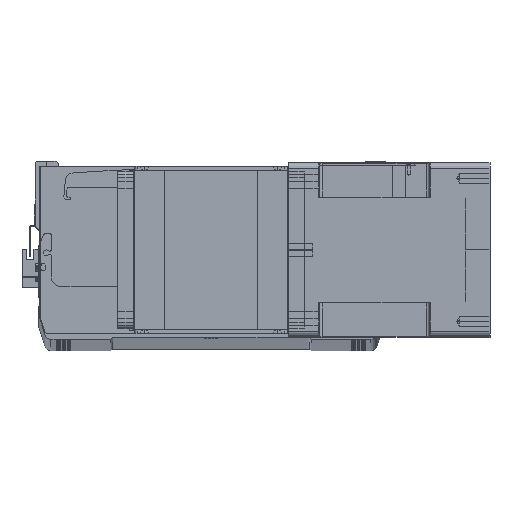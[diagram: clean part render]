
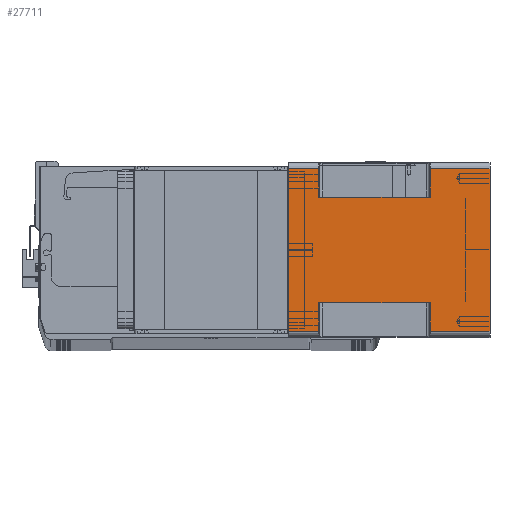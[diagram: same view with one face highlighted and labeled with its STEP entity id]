
A CAD part, top view. The second image highlights one B-rep face of the part: STEP entity #27711.
In plain terms, the highlighted planar face has unit normal (0, 0, 1) as drawn and (1, 0, 0) by its records, which use the part's own axes.
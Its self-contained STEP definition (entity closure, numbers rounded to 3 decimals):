
#1254 = LINE ( 'NONE', #16430, #12022 ) ;
#1464 = CARTESIAN_POINT ( 'NONE',  ( 71., -43., -24.5 ) ) ;
#2217 = ORIENTED_EDGE ( 'NONE', *, *, #5208, .F. ) ;
#2384 = VECTOR ( 'NONE', #13791, 1000. ) ;
#2499 = DIRECTION ( 'NONE',  ( 0., 0., 1. ) ) ;
#2751 = EDGE_CURVE ( 'NONE', #6782, #4648, #1254, .T. ) ;
#3685 = PLANE ( 'NONE',  #13955 ) ;
#4100 = ORIENTED_EDGE ( 'NONE', *, *, #20103, .T. ) ;
#4196 = VERTEX_POINT ( 'NONE', #39315 ) ;
#4211 = EDGE_CURVE ( 'NONE', #23859, #15850, #22135, .T. ) ;
#4559 = CARTESIAN_POINT ( 'NONE',  ( 71., 66., -164. ) ) ;
#4648 = VERTEX_POINT ( 'NONE', #35583 ) ;
#5171 = VERTEX_POINT ( 'NONE', #10490 ) ;
#5208 = EDGE_CURVE ( 'NONE', #16538, #19620, #10686, .T. ) ;
#5342 = VERTEX_POINT ( 'NONE', #8427 ) ;
#5576 = ORIENTED_EDGE ( 'NONE', *, *, #29170, .F. ) ;
#6147 = CARTESIAN_POINT ( 'NONE',  ( 71., -66., -24.5 ) ) ;
#6274 = ORIENTED_EDGE ( 'NONE', *, *, #36395, .F. ) ;
#6277 = DIRECTION ( 'NONE',  ( 0., 1., 0. ) ) ;
#6782 = VERTEX_POINT ( 'NONE', #8932 ) ;
#7959 = DIRECTION ( 'NONE',  ( 0., 0., 1. ) ) ;
#8018 = VECTOR ( 'NONE', #10479, 1000. ) ;
#8315 = VECTOR ( 'NONE', #23290, 1000. ) ;
#8375 = CARTESIAN_POINT ( 'NONE',  ( 71., -66., -164. ) ) ;
#8427 = CARTESIAN_POINT ( 'NONE',  ( 71., 66., -24.5 ) ) ;
#8605 = CARTESIAN_POINT ( 'NONE',  ( 71., -66., -24.5 ) ) ;
#8932 = CARTESIAN_POINT ( 'NONE',  ( 71., -43., -115.5 ) ) ;
#9208 = ORIENTED_EDGE ( 'NONE', *, *, #34616, .T. ) ;
#9475 = LINE ( 'NONE', #20257, #8018 ) ;
#10479 = DIRECTION ( 'NONE',  ( 0., 0., 1. ) ) ;
#10490 = CARTESIAN_POINT ( 'NONE',  ( 71., 66., 0. ) ) ;
#10616 = EDGE_LOOP ( 'NONE', ( #6274, #17744, #16535, #4100, #31462, #15728, #2217, #9208, #32844, #5576, #21635, #38420 ) ) ;
#10686 = LINE ( 'NONE', #32930, #2384 ) ;
#12022 = VECTOR ( 'NONE', #29025, 1000. ) ;
#12687 = CARTESIAN_POINT ( 'NONE',  ( 71., -66., 0. ) ) ;
#13791 = DIRECTION ( 'NONE',  ( 0., 0., -1. ) ) ;
#13955 = AXIS2_PLACEMENT_3D ( 'NONE', #38711, #26042, #35418 ) ;
#14599 = VECTOR ( 'NONE', #18200, 1000. ) ;
#14707 = CARTESIAN_POINT ( 'NONE',  ( 71., 43., -115.5 ) ) ;
#14771 = VECTOR ( 'NONE', #35511, 1000. ) ;
#15246 = LINE ( 'NONE', #8605, #29934 ) ;
#15728 = ORIENTED_EDGE ( 'NONE', *, *, #24642, .T. ) ;
#15850 = VERTEX_POINT ( 'NONE', #28064 ) ;
#16430 = CARTESIAN_POINT ( 'NONE',  ( 71., -66., -115.5 ) ) ;
#16535 = ORIENTED_EDGE ( 'NONE', *, *, #32826, .F. ) ;
#16538 = VERTEX_POINT ( 'NONE', #38473 ) ;
#17330 = VECTOR ( 'NONE', #6277, 1000. ) ;
#17744 = ORIENTED_EDGE ( 'NONE', *, *, #2751, .T. ) ;
#18132 = VERTEX_POINT ( 'NONE', #38585 ) ;
#18200 = DIRECTION ( 'NONE',  ( 0., 1., 0. ) ) ;
#18645 = LINE ( 'NONE', #4559, #40097 ) ;
#19473 = LINE ( 'NONE', #24917, #25840 ) ;
#19620 = VERTEX_POINT ( 'NONE', #14707 ) ;
#20103 = EDGE_CURVE ( 'NONE', #18132, #21973, #37108, .T. ) ;
#20257 = CARTESIAN_POINT ( 'NONE',  ( 71., -66., -164. ) ) ;
#21635 = ORIENTED_EDGE ( 'NONE', *, *, #4211, .F. ) ;
#21973 = VERTEX_POINT ( 'NONE', #32307 ) ;
#22135 = LINE ( 'NONE', #8375, #27502 ) ;
#22391 = VECTOR ( 'NONE', #2499, 1000. ) ;
#22934 = FACE_OUTER_BOUND ( 'NONE', #10616, .T. ) ;
#23152 = LINE ( 'NONE', #1464, #14771 ) ;
#23290 = DIRECTION ( 'NONE',  ( 0., 0., 1. ) ) ;
#23859 = VERTEX_POINT ( 'NONE', #6147 ) ;
#24642 = EDGE_CURVE ( 'NONE', #33701, #19620, #19473, .T. ) ;
#24774 = DIRECTION ( 'NONE',  ( 0., -1., 0. ) ) ;
#24917 = CARTESIAN_POINT ( 'NONE',  ( 71., 43., -115.5 ) ) ;
#25840 = VECTOR ( 'NONE', #24774, 1000. ) ;
#26042 = DIRECTION ( 'NONE',  ( 1., 0., 0. ) ) ;
#26803 = EDGE_CURVE ( 'NONE', #23859, #4196, #23152, .T. ) ;
#27429 = CARTESIAN_POINT ( 'NONE',  ( 71., -43., -164. ) ) ;
#27502 = VECTOR ( 'NONE', #29882, 1000. ) ;
#27711 = ADVANCED_FACE ( 'NONE', ( #22934 ), #3685, .T. ) ;
#27751 = CARTESIAN_POINT ( 'NONE',  ( 71., -66., -164. ) ) ;
#28064 = CARTESIAN_POINT ( 'NONE',  ( 71., -66., 0. ) ) ;
#29025 = DIRECTION ( 'NONE',  ( 0., -1., 0. ) ) ;
#29170 = EDGE_CURVE ( 'NONE', #15850, #5171, #31533, .T. ) ;
#29700 = LINE ( 'NONE', #27429, #22391 ) ;
#29882 = DIRECTION ( 'NONE',  ( 0., 0., 1. ) ) ;
#29934 = VECTOR ( 'NONE', #30110, 1000. ) ;
#30110 = DIRECTION ( 'NONE',  ( 0., 1., 0. ) ) ;
#31069 = EDGE_CURVE ( 'NONE', #21973, #33701, #18645, .T. ) ;
#31301 = CARTESIAN_POINT ( 'NONE',  ( 71., 66., -115.5 ) ) ;
#31462 = ORIENTED_EDGE ( 'NONE', *, *, #31069, .T. ) ;
#31533 = LINE ( 'NONE', #12687, #17330 ) ;
#32307 = CARTESIAN_POINT ( 'NONE',  ( 71., 66., -164. ) ) ;
#32826 = EDGE_CURVE ( 'NONE', #18132, #4648, #9475, .T. ) ;
#32844 = ORIENTED_EDGE ( 'NONE', *, *, #34921, .T. ) ;
#32930 = CARTESIAN_POINT ( 'NONE',  ( 71., 43., -164. ) ) ;
#33701 = VERTEX_POINT ( 'NONE', #31301 ) ;
#34616 = EDGE_CURVE ( 'NONE', #16538, #5342, #15246, .T. ) ;
#34921 = EDGE_CURVE ( 'NONE', #5342, #5171, #35249, .T. ) ;
#35249 = LINE ( 'NONE', #39114, #8315 ) ;
#35418 = DIRECTION ( 'NONE',  ( 0., 1., 0. ) ) ;
#35511 = DIRECTION ( 'NONE',  ( 0., 1., 0. ) ) ;
#35583 = CARTESIAN_POINT ( 'NONE',  ( 71., -66., -115.5 ) ) ;
#36395 = EDGE_CURVE ( 'NONE', #6782, #4196, #29700, .T. ) ;
#37108 = LINE ( 'NONE', #27751, #14599 ) ;
#38420 = ORIENTED_EDGE ( 'NONE', *, *, #26803, .T. ) ;
#38473 = CARTESIAN_POINT ( 'NONE',  ( 71., 43., -24.5 ) ) ;
#38585 = CARTESIAN_POINT ( 'NONE',  ( 71., -66., -164. ) ) ;
#38711 = CARTESIAN_POINT ( 'NONE',  ( 71., -66., -164. ) ) ;
#39114 = CARTESIAN_POINT ( 'NONE',  ( 71., 66., -164. ) ) ;
#39315 = CARTESIAN_POINT ( 'NONE',  ( 71., -43., -24.5 ) ) ;
#40097 = VECTOR ( 'NONE', #7959, 1000. ) ;
